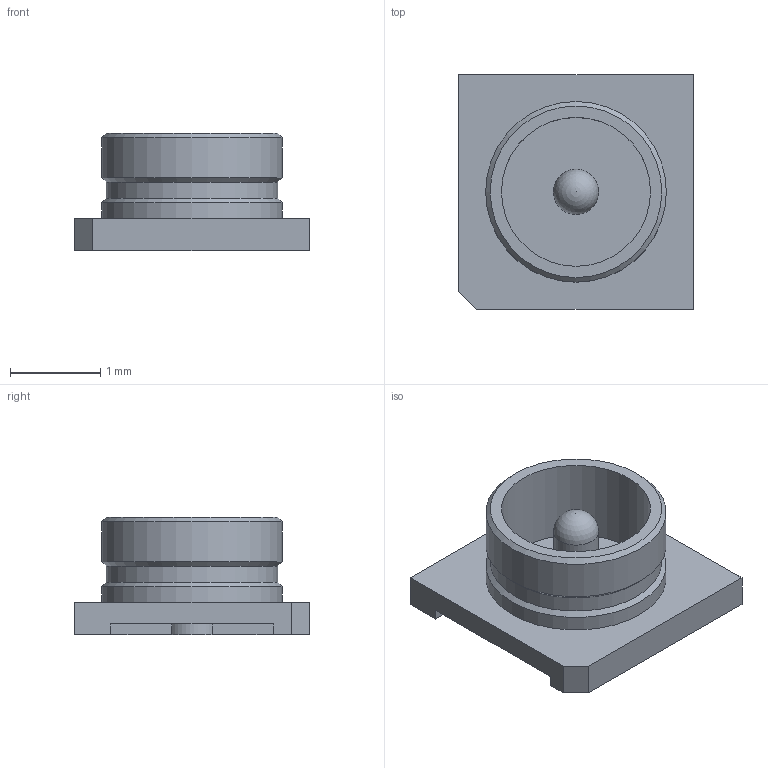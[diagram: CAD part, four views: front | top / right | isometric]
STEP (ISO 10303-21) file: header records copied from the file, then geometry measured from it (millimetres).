
FILE_DESCRIPTION(/* description */ ('STEP AP242 Edition 2','CAx-IF Rec.Pracs.---Representation and Presentation of Product Manufacturing Information (PMI)---4.0---2014-10-13','CAx-IF Rec.Pracs.---3D Tessellated Geometry---0.4---2014-09-14','2;1','CAx-IF Rec.Pracs.---User Defined Attributes---1.5---2016-08-15'),/* implementation_level */ '2;1');
FILE_NAME(/* name */ 'Assembly 1 - U.FL Connector v1',/* time_stamp */ '2026-09-16T18:36:11Z',/* author */ (''),/* organization */ (''),/* preprocessor_version */ 'ST-DEVELOPER v20',/* originating_system */ 'ONSHAPE BY PTC INC, 1.220',/* authorisation */ ' ');
FILE_SCHEMA (('AP242_MANAGED_MODEL_BASED_3D_ENGINEERING_MIM_LF { 1 0 10303 442 3 1 4 }'));
Length unit declared in the file: centimetre
Products named in the file (1): U.FL Connector v1
Bounding box: 2.6 x 2.6 x 1.3 mm (x, y, z)
Volume: 3.4 mm3; surface area: 29.4 mm2
Topology: 1 solids, 1 shells, 34 faces, 87 edges, 57 vertices
Faces by surface type: plane 23, cylinder 7, cone 3, sphere 1
Full cylindrical faces by diameter (mm): 0.5 x1, 1.65 x1, 1.9 x1, 2 x2
Entity records: 1034 total; most frequent: CARTESIAN_POINT 162, DIRECTION 159, ORIENTED_EDGE 148, EDGE_CURVE 74, LINE 59, VECTOR 59, VERTEX_POINT 53, AXIS2_PLACEMENT_3D 50
